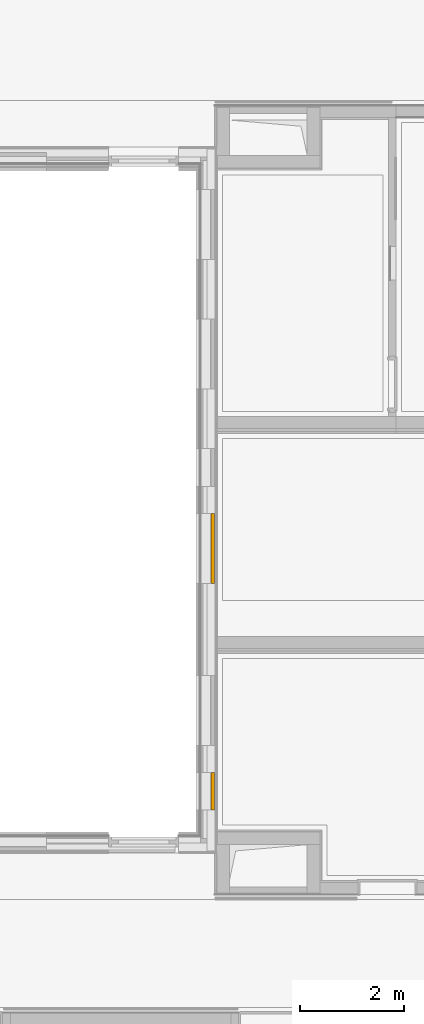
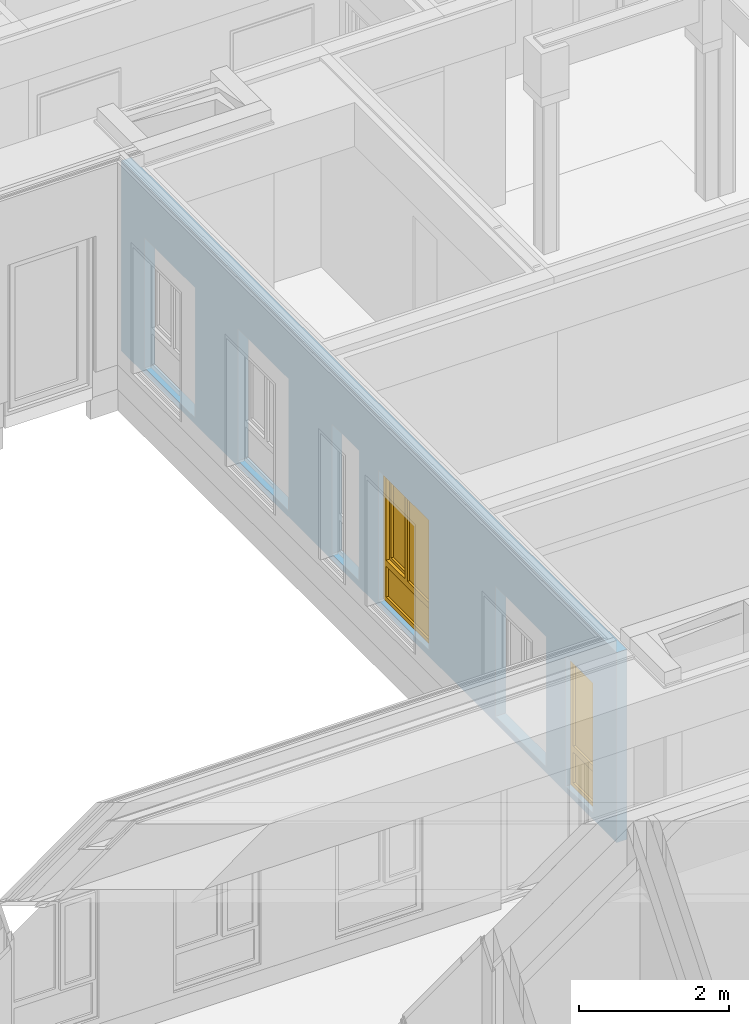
# One storey, part 83 of 207: 2 windows, 6 openings, plus 1 element that does not belong to this part.
"""IFC4 building model written with IfcOpenShell, lengths in metres."""

from ifc_helpers import new_model, entity, si_unit, converted_unit, derived_unit, frame, frame_2d, origin, origin_with_axes, place, context, subcontext, project, spatial, polyline, rectangle, outline, extrude, closed_shell, open_shell, surface_model, source, transform, mapped, material, element, fill, save


model = new_model("IFC4")

# Units and contexts
model_context = context("Model", 3, precision=1e-05, world=origin())
body_context = subcontext(model_context, "Body", "Model", "MODEL_VIEW")
ifc_project = project(units=[si_unit("LENGTHUNIT", "METRE"), si_unit("AREAUNIT", "SQUARE_METRE"), si_unit("VOLUMEUNIT", "CUBIC_METRE"), si_unit("MASSUNIT", "GRAM", prefix="KILO"), converted_unit("PLANEANGLEUNIT", "DEGREE", entity("IfcPlaneAngleMeasure", 0.0174532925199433), si_unit("PLANEANGLEUNIT", "RADIAN"), dimensions=[0, 0, 0, 0, 0, 0, 0]), derived_unit("THERMALTRANSMITTANCEUNIT", [(si_unit("POWERUNIT", "WATT"), 1), (si_unit("THERMODYNAMICTEMPERATUREUNIT", "KELVIN"), -1), (si_unit("LENGTHUNIT", "METRE"), -2)]), derived_unit("VOLUMETRICFLOWRATEUNIT", [(si_unit("LENGTHUNIT", "METRE"), 3), (converted_unit("TIMEUNIT", "hour", entity("IfcTimeMeasure", 3600.0), si_unit("TIMEUNIT", "SECOND"), dimensions=[0, 0, 1, 0, 0, 0, 0]), -1), (si_unit("LENGTHUNIT", "METRE"), -1)])], contexts=[model_context])

# Site, building, storey
site_placement = place(None, origin())
site = spatial("IfcSite", under=ifc_project, at=site_placement, Name="Psychiatrie Neubau Wunstorf", CompositionType="ELEMENT")
building_placement = place(site_placement, origin())
building = spatial("IfcBuilding", under=site, at=building_placement, Name="Neubau H2 Stationsgebäude", CompositionType="ELEMENT")
storey_placement = place(building_placement, frame((0.0, 0.0, -0.2)))
storey = spatial("IfcBuildingStorey", under=building, at=storey_placement, Name="H2 Ebene 0", CompositionType="ELEMENT", Elevation=-0.2)

# Wall, openings, windows
ifc_material = material(Name="WA-HD")
wall_placement = place(storey_placement, frame((26.825, 7.61, 0.5), z_axis=(0.0, 0.0, 1.0), x_axis=(5.49959003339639e-16, 1.0, 0.0)))
wall = element("IfcWall", 1, at=wall_placement, inside=storey, material=ifc_material, context=body_context, shape_type="SweptSolid", body=[
    extrude(rectangle(XDim=13.23, YDim=0.16, at=frame_2d((6.615, 0.08), x_axis=(1.0, 0.0))), origin_with_axes(), (0.0, 0.0, 1.0), 3.1),
])
opening_1_placement = place(wall_placement, frame((3.23244477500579, 0.159999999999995, 0.1), z_axis=(0.0, -1.0, 0.0), x_axis=(0.0, 0.0, 1.0)))
element("IfcOpeningElement", 2, at=opening_1_placement, cuts=wall, Name="Fensteröffnung", ObjectType="Opening", context=body_context, shape_type="SweptSolid", body=[
    extrude(outline(polyline([(2.12, 1.35), (2.12, 0.0), (0.0, 0.0), (0.0, 1.35), (2.12, 1.35)])), origin_with_axes(), (0.0, 0.0, 1.0), 0.16),
])
opening_2_placement = place(wall_placement, frame((7.60505754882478, 0.160000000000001, 0.1), z_axis=(0.0, -1.0, 0.0), x_axis=(0.0, 0.0, 1.0)))
element("IfcOpeningElement", 3, at=opening_2_placement, cuts=wall, Name="Fensteröffnung", ObjectType="Opening", context=body_context, shape_type="SweptSolid", body=[
    extrude(outline(polyline([(2.12, 0.725), (2.12, 0.0), (0.0, 0.0), (0.0, 0.725), (2.12, 0.725)])), origin_with_axes(), (0.0, 0.0, 1.0), 0.16),
])
opening_3_placement = place(wall_placement, frame((12.605, 0.159999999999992, 0.1), z_axis=(0.0, -1.0, 0.0), x_axis=(0.0, 0.0, 1.0)))
element("IfcOpeningElement", 4, at=opening_3_placement, cuts=wall, Name="Fensteröffnung", ObjectType="Opening", context=body_context, shape_type="SweptSolid", body=[
    extrude(outline(polyline([(2.12, 1.35), (2.12, 0.0), (0.0, 0.0), (0.0, 1.35), (2.12, 1.35)])), origin_with_axes(), (0.0, 0.0, 1.0), 0.16),
])
opening_4_placement = place(wall_placement, frame((10.1054401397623, 0.159999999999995, 0.1), z_axis=(0.0, -1.0, 0.0), x_axis=(0.0, 0.0, 1.0)))
element("IfcOpeningElement", 5, at=opening_4_placement, cuts=wall, Name="Fensteröffnung", ObjectType="Opening", context=body_context, shape_type="SweptSolid", body=[
    extrude(outline(polyline([(2.15, 1.35), (2.15, 0.0), (0.0, 0.0), (0.0, 1.35), (2.15, 1.35)])), origin_with_axes(), (0.0, 0.0, 1.0), 0.16),
])
opening_5_placement = place(wall_placement, frame((1.35744478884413, 0.15999999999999, 0.1), z_axis=(0.0, -1.0, 0.0), x_axis=(0.0, 0.0, 1.0)))
opening_5 = element("IfcOpeningElement", 6, at=opening_5_placement, cuts=wall, Name="Fensteröffnung", ObjectType="Opening", context=body_context, shape_type="SweptSolid", body=[
    extrude(outline(polyline([(2.12, 0.725), (2.12, 0.0), (0.0, 0.0), (0.0, 0.725), (2.12, 0.725)])), origin_with_axes(), (0.0, 0.0, 1.0), 0.16),
])
opening_6_placement = place(wall_placement, frame((6.35580066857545, 0.159999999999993, 0.1), z_axis=(0.0, -1.0, 0.0), x_axis=(0.0, 0.0, 1.0)))
opening_6 = element("IfcOpeningElement", 7, at=opening_6_placement, cuts=wall, Name="Fensteröffnung", ObjectType="Opening", context=body_context, shape_type="SweptSolid", body=[
    extrude(outline(polyline([(2.12, 1.35), (2.12, 0.0), (0.0, 0.0), (0.0, 1.35), (2.12, 1.35)])), origin_with_axes(), (0.0, 0.0, 1.0), 0.16),
])
shared_shape_1 = source(origin_with_axes(), body_context, "Body", "SurfaceModel", [
    surface_model("IfcShellBasedSurfaceModel", [(0.725000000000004, 0.0, 2.12), (0.725000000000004, 0.0, 0.0), (0.655000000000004, 0.0, 0.0), (0.655000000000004, 0.0, 2.12), (0.725000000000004, 0.0699999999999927, 0.0), (0.725000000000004, 0.0699999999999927, 2.12), (0.655000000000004, 0.0699999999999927, 2.12), (0.655000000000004, 0.0699999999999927, 0.0)], [closed_shell([[[0, 1, 2, 3]], [[4, 5, 6, 7]], [[1, 0, 5, 4]], [[2, 1, 4, 7]], [[3, 2, 7, 6]], [[0, 3, 6, 5]]], orient=[[False], [False], [False], [False], [False], [False]])]),
    surface_model("IfcShellBasedSurfaceModel", [(0.0700000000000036, 0.0, 2.12), (0.0700000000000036, 0.0, 0.0), (0.0, 0.0, 0.0), (0.0, 0.0, 2.12), (0.0700000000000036, 0.0699999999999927, 0.0), (0.0700000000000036, 0.0699999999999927, 2.12), (0.0, 0.0699999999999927, 2.12), (0.0, 0.0699999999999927, 0.0)], [closed_shell([[[0, 1, 2, 3]], [[4, 5, 6, 7]], [[1, 0, 5, 4]], [[2, 1, 4, 7]], [[3, 2, 7, 6]], [[0, 3, 6, 5]]], orient=[[False], [False], [False], [False], [False], [False]])]),
    surface_model("IfcShellBasedSurfaceModel", [(0.655000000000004, 0.0, 0.07), (0.655000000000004, 0.0, 0.0), (0.0700000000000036, 0.0, 0.0), (0.0700000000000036, 0.0, 0.07), (0.655000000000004, 0.0699999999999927, 0.0), (0.655000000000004, 0.0699999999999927, 0.07), (0.0700000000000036, 0.0699999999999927, 0.07), (0.0700000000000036, 0.0699999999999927, 0.0)], [closed_shell([[[0, 1, 2, 3]], [[4, 5, 6, 7]], [[1, 0, 5, 4]], [[2, 1, 4, 7]], [[3, 2, 7, 6]], [[0, 3, 6, 5]]], orient=[[False], [False], [False], [False], [False], [False]])]),
    surface_model("IfcShellBasedSurfaceModel", [(0.655000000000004, 0.0, 2.12), (0.655000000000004, 0.0, 2.05), (0.0700000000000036, 0.0, 2.05), (0.0700000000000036, 0.0, 2.12), (0.655000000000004, 0.0699999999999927, 2.05), (0.655000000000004, 0.0699999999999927, 2.12), (0.0700000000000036, 0.0699999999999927, 2.12), (0.0700000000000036, 0.0699999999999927, 2.05)], [closed_shell([[[0, 1, 2, 3]], [[4, 5, 6, 7]], [[1, 0, 5, 4]], [[2, 1, 4, 7]], [[3, 2, 7, 6]], [[0, 3, 6, 5]]], orient=[[False], [False], [False], [False], [False], [False]])]),
    surface_model("IfcShellBasedSurfaceModel", [(0.655000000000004, 0.0, 0.67), (0.655000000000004, 0.0, 0.57), (0.0700000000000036, 0.0, 0.57), (0.0700000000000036, 0.0, 0.67), (0.655000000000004, 0.0699999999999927, 0.57), (0.655000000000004, 0.0699999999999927, 0.67), (0.0700000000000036, 0.0699999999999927, 0.67), (0.0700000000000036, 0.0699999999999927, 0.57)], [closed_shell([[[0, 1, 2, 3]], [[4, 5, 6, 7]], [[1, 0, 5, 4]], [[2, 1, 4, 7]], [[3, 2, 7, 6]], [[0, 3, 6, 5]]], orient=[[False], [False], [False], [False], [False], [False]])]),
    surface_model("IfcShellBasedSurfaceModel", [(0.655000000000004, 0.0349999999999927, 0.07), (0.0700000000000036, 0.0349999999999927, 0.07), (0.0700000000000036, 0.0349999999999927, 0.57), (0.655000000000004, 0.0349999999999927, 0.57)], [open_shell([[[0, 1, 2, 3]]], orient=[[False]])]),
    surface_model("IfcShellBasedSurfaceModel", [(0.655000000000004, 0.0349999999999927, 0.67), (0.0700000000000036, 0.0349999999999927, 0.67), (0.0700000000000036, 0.0349999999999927, 2.05), (0.655000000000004, 0.0349999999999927, 2.05)], [open_shell([[[0, 1, 2, 3]]], orient=[[False]])]),
])
window_1_placement = place(opening_5_placement, frame((0.0, 0.0, 0.076), z_axis=(1.0, 0.0, 0.0), x_axis=(0.0, 1.0, 5.49959003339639e-16)))
window_1 = element("IfcWindow", 8, at=window_1_placement, inside=storey, Name="Fenster", OverallHeight=2.12, OverallWidth=0.725, PartitioningType="USERDEFINED", PredefinedType="WINDOW", context=body_context, shape_type="MappedRepresentation", body=[
    mapped(shared_shape_1, transform((0.0, 0.0, 0.0), x_axis=(1.0, 0.0, 0.0), y_axis=(0.0, 1.0, 0.0), z_axis=(0.0, 0.0, 1.0), scale=1.0)),
])
fill(opening_5, window_1)
shared_shape_2 = source(origin_with_axes(), body_context, "Body", "SurfaceModel", [
    surface_model("IfcShellBasedSurfaceModel", [(1.35, 0.0, 2.12), (1.35, 0.0, 0.0), (1.28, 0.0, 0.0), (1.28, 0.0, 2.12), (1.35, 0.0700000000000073, 0.0), (1.35, 0.0700000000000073, 2.12), (1.28, 0.0700000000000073, 2.12), (1.28, 0.0700000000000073, 0.0)], [closed_shell([[[0, 1, 2, 3]], [[4, 5, 6, 7]], [[1, 0, 5, 4]], [[2, 1, 4, 7]], [[3, 2, 7, 6]], [[0, 3, 6, 5]]], orient=[[False], [False], [False], [False], [False], [False]])]),
    surface_model("IfcShellBasedSurfaceModel", [(0.0699999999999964, 0.0, 2.12), (0.0699999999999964, 0.0, 0.0), (0.0, 0.0, 0.0), (0.0, 0.0, 2.12), (0.0699999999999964, 0.0700000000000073, 0.0), (0.0699999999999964, 0.0700000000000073, 2.12), (0.0, 0.0700000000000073, 2.12), (0.0, 0.0700000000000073, 0.0)], [closed_shell([[[0, 1, 2, 3]], [[4, 5, 6, 7]], [[1, 0, 5, 4]], [[2, 1, 4, 7]], [[3, 2, 7, 6]], [[0, 3, 6, 5]]], orient=[[False], [False], [False], [False], [False], [False]])]),
    surface_model("IfcShellBasedSurfaceModel", [(1.28, 0.0, 0.07), (1.28, 0.0, 0.0), (0.0699999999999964, 0.0, 0.0), (0.0699999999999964, 0.0, 0.07), (1.28, 0.0700000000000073, 0.0), (1.28, 0.0700000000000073, 0.07), (0.0699999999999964, 0.0700000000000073, 0.07), (0.0699999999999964, 0.0700000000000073, 0.0)], [closed_shell([[[0, 1, 2, 3]], [[4, 5, 6, 7]], [[1, 0, 5, 4]], [[2, 1, 4, 7]], [[3, 2, 7, 6]], [[0, 3, 6, 5]]], orient=[[False], [False], [False], [False], [False], [False]])]),
    surface_model("IfcShellBasedSurfaceModel", [(1.28, 0.0, 2.12), (1.28, 0.0, 2.05), (0.0699999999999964, 0.0, 2.05), (0.0699999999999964, 0.0, 2.12), (1.28, 0.0700000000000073, 2.05), (1.28, 0.0700000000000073, 2.12), (0.0699999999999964, 0.0700000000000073, 2.12), (0.0699999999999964, 0.0700000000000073, 2.05)], [closed_shell([[[0, 1, 2, 3]], [[4, 5, 6, 7]], [[1, 0, 5, 4]], [[2, 1, 4, 7]], [[3, 2, 7, 6]], [[0, 3, 6, 5]]], orient=[[False], [False], [False], [False], [False], [False]])]),
    surface_model("IfcShellBasedSurfaceModel", [(1.28, 0.0, 0.67), (1.28, 0.0, 0.57), (0.0699999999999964, 0.0, 0.57), (0.0699999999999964, 0.0, 0.67), (1.28, 0.0700000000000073, 0.57), (1.28, 0.0700000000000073, 0.67), (0.0699999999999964, 0.0700000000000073, 0.67), (0.0699999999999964, 0.0700000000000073, 0.57)], [closed_shell([[[0, 1, 2, 3]], [[4, 5, 6, 7]], [[1, 0, 5, 4]], [[2, 1, 4, 7]], [[3, 2, 7, 6]], [[0, 3, 6, 5]]], orient=[[False], [False], [False], [False], [False], [False]])]),
    surface_model("IfcShellBasedSurfaceModel", [(1.28, 0.0350000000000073, 0.07), (0.0699999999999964, 0.0350000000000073, 0.07), (0.0699999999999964, 0.0350000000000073, 0.57), (1.28, 0.0350000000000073, 0.57)], [open_shell([[[0, 1, 2, 3]]], orient=[[False]])]),
    surface_model("IfcShellBasedSurfaceModel", [(0.779999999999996, 0.0, 2.05), (0.779999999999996, 0.0, 0.67), (0.709999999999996, 0.0, 0.67), (0.709999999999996, 0.0, 2.05), (0.779999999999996, 0.0700000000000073, 0.67), (0.779999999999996, 0.0700000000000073, 2.05), (0.709999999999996, 0.0700000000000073, 2.05), (0.709999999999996, 0.0700000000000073, 0.67)], [closed_shell([[[0, 1, 2, 3]], [[4, 5, 6, 7]], [[1, 0, 5, 4]], [[2, 1, 4, 7]], [[3, 2, 7, 6]], [[0, 3, 6, 5]]], orient=[[False], [False], [False], [False], [False], [False]])]),
    surface_model("IfcShellBasedSurfaceModel", [(1.3, -0.0499999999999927, 2.07), (1.3, -0.0499999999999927, 0.65), (1.23, -0.0499999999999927, 0.65), (1.23, -0.0499999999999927, 2.07), (1.3, 0.0200000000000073, 0.65), (1.3, 0.0200000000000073, 2.07), (1.23, 0.0200000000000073, 2.07), (1.23, 0.0200000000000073, 0.65)], [closed_shell([[[0, 1, 2, 3]], [[4, 5, 6, 7]], [[1, 0, 5, 4]], [[2, 1, 4, 7]], [[3, 2, 7, 6]], [[0, 3, 6, 5]]], orient=[[False], [False], [False], [False], [False], [False]])]),
    surface_model("IfcShellBasedSurfaceModel", [(0.829999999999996, -0.0499999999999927, 2.07), (0.829999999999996, -0.0499999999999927, 0.65), (0.759999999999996, -0.0499999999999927, 0.65), (0.759999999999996, -0.0499999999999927, 2.07), (0.829999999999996, 0.0200000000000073, 0.65), (0.829999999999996, 0.0200000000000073, 2.07), (0.759999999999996, 0.0200000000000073, 2.07), (0.759999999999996, 0.0200000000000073, 0.65)], [closed_shell([[[0, 1, 2, 3]], [[4, 5, 6, 7]], [[1, 0, 5, 4]], [[2, 1, 4, 7]], [[3, 2, 7, 6]], [[0, 3, 6, 5]]], orient=[[False], [False], [False], [False], [False], [False]])]),
    surface_model("IfcShellBasedSurfaceModel", [(1.23, -0.0499999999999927, 0.72), (1.23, -0.0499999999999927, 0.65), (0.829999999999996, -0.0499999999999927, 0.65), (0.829999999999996, -0.0499999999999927, 0.72), (1.23, 0.0200000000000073, 0.65), (1.23, 0.0200000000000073, 0.72), (0.829999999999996, 0.0200000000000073, 0.72), (0.829999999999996, 0.0200000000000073, 0.65)], [closed_shell([[[0, 1, 2, 3]], [[4, 5, 6, 7]], [[1, 0, 5, 4]], [[2, 1, 4, 7]], [[3, 2, 7, 6]], [[0, 3, 6, 5]]], orient=[[False], [False], [False], [False], [False], [False]])]),
    surface_model("IfcShellBasedSurfaceModel", [(1.23, -0.0499999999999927, 2.07), (1.23, -0.0499999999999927, 2.0), (0.829999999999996, -0.0499999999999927, 2.0), (0.829999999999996, -0.0499999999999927, 2.07), (1.23, 0.0200000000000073, 2.0), (1.23, 0.0200000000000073, 2.07), (0.829999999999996, 0.0200000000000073, 2.07), (0.829999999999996, 0.0200000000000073, 2.0)], [closed_shell([[[0, 1, 2, 3]], [[4, 5, 6, 7]], [[1, 0, 5, 4]], [[2, 1, 4, 7]], [[3, 2, 7, 6]], [[0, 3, 6, 5]]], orient=[[False], [False], [False], [False], [False], [False]])]),
    surface_model("IfcShellBasedSurfaceModel", [(0.709999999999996, 0.0350000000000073, 0.67), (0.0699999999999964, 0.0350000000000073, 0.67), (0.0699999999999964, 0.0350000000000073, 2.05), (0.709999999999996, 0.0350000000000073, 2.05)], [open_shell([[[0, 1, 2, 3]]], orient=[[False]])]),
    surface_model("IfcShellBasedSurfaceModel", [(1.23, -0.0149999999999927, 0.72), (0.829999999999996, -0.0149999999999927, 0.72), (0.829999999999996, -0.0149999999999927, 2.0), (1.23, -0.0149999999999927, 2.0)], [open_shell([[[0, 1, 2, 3]]], orient=[[False]])]),
])
window_2_placement = place(opening_6_placement, frame((0.0, 1.35, 0.146), z_axis=(1.0, 0.0, 0.0), x_axis=(0.0, -1.0, -5.49959003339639e-16)))
window_2 = element("IfcWindow", 9, at=window_2_placement, inside=storey, Name="Fenster", OverallHeight=2.12, OverallWidth=1.35, PartitioningType="USERDEFINED", PredefinedType="WINDOW", context=body_context, shape_type="MappedRepresentation", body=[
    mapped(shared_shape_2, transform((0.0, 0.0, 0.0), x_axis=(1.0, 0.0, 0.0), y_axis=(0.0, 1.0, 0.0), z_axis=(0.0, 0.0, 1.0), scale=1.0)),
])
fill(opening_6, window_2)

save(model, "model.ifc")
